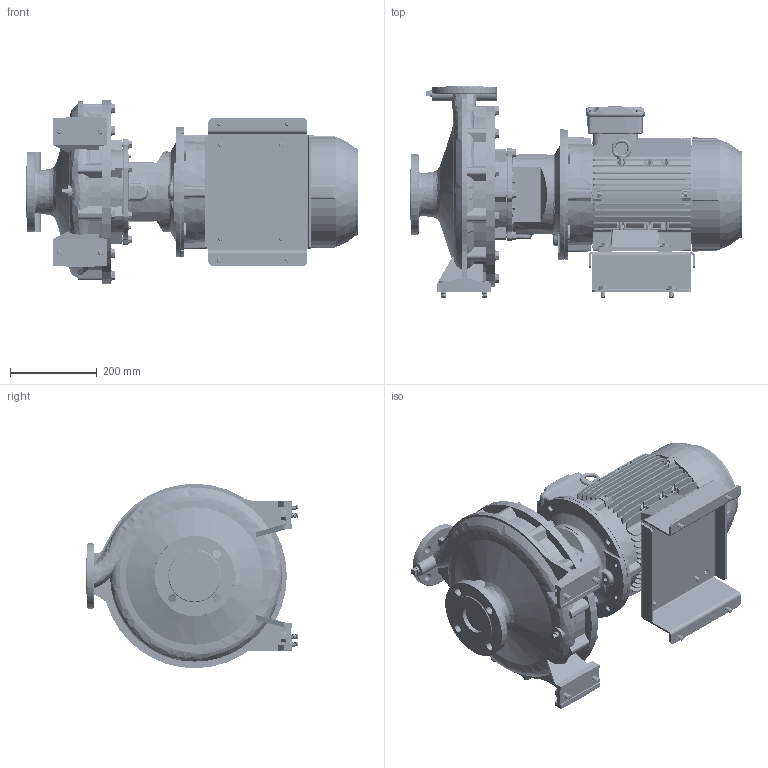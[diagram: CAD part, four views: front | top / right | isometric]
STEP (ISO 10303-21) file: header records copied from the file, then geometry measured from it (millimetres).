
FILE_DESCRIPTION (( 'STEP AP214' ), '1' );
FILE_NAME ('GSD4 40-315_5.5_(132S)_W21.STEP', '2026-06-18T05:59:02', ( '' ), ( '' ), 'SwSTEP 2.0', 'SolidWorks 2024', '' );
FILE_SCHEMA (( 'AUTOMOTIVE_DESIGN' ));
Length unit declared in the file: millimetre
Products named in the file (12): Parametric bolt and washer_SFT-A249B; Parametric bolt_SFT-A253B; Parametric bolt and washer_SFT-A299B; Parametric bolt_SFT-A299B; GSD4 40-315_5.5_(132S)_W21; 140_178 x 93 BP - CGSDA-5244; Parametric Flat Washer_M10; 40-315-132S_ﾃﾞﾌｫﾙﾄ; Parametric bolt_SFT-A249B; 132S ALIE3_W21T_B35; Parametric bolt and washer_SFT-A253B; Parametric Flat Washer_M12
Assembly tree (21 placements, depth 3):
  GSD4 40-315_5.5_(132S)_W21
    40-315-132S_ﾃﾞﾌｫﾙﾄ
    140_178 x 93 BP - CGSDA-5244
    Parametric bolt and washer_SFT-A299B  x4
      Parametric bolt_SFT-A299B
      Parametric Flat Washer_M12
    Parametric bolt and washer_SFT-A249B  x4
      Parametric bolt_SFT-A249B
      Parametric Flat Washer_M10
    Parametric bolt and washer_SFT-A253B  x4
      Parametric bolt_SFT-A253B
      Parametric Flat Washer_M10
    132S ALIE3_W21T_B35
Bounding box: 764.8 x 488 x 425 mm (x, y, z)
Volume: 35796452.4 mm3; surface area: 2436271.3 mm2
Topology: 31 solids, 31 shells, 5150 faces, 13293 edges, 8551 vertices
Faces by surface type: plane 3048, cylinder 1205, cone 295, bspline 290, torus 280, sphere 32
Entity records: 178544 total; most frequent: CARTESIAN_POINT 67258, ORIENTED_EDGE 23948, DIRECTION 21616, EDGE_CURVE 11974, LINE 7904, VECTOR 7904, VERTEX_POINT 7711, AXIS2_PLACEMENT_3D 6856
